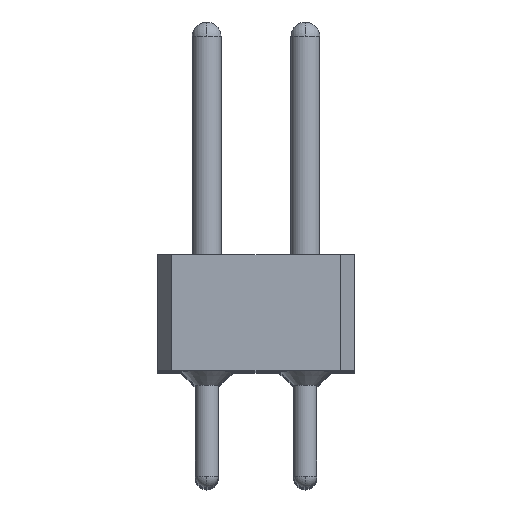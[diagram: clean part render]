
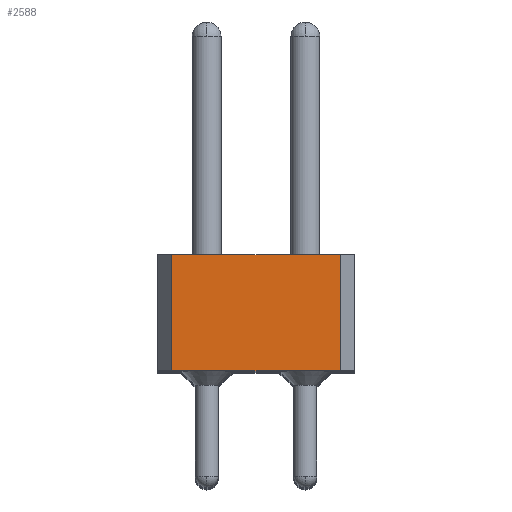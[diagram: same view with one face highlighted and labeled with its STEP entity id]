
A CAD part, top view. The second image highlights one B-rep face of the part: STEP entity #2588.
In plain terms, the highlighted planar face has unit normal (0, 0, 1).
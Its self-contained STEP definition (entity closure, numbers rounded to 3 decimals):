
#1762=FACE_OUTER_BOUND('',#5654,.T.);
#2588=ADVANCED_FACE('',(#1762),#2908,.F.);
#2908=PLANE('',#14461);
#3495=LINE('',#22875,#4111);
#3507=LINE('',#22907,#4123);
#3514=LINE('',#22922,#4130);
#3515=LINE('',#22924,#4131);
#4111=VECTOR('',#18322,1.);
#4123=VECTOR('',#18342,1.);
#4130=VECTOR('',#18357,1.);
#4131=VECTOR('',#18360,1.);
#5654=EDGE_LOOP('',(#8929,#8930,#8931,#8932));
#8929=ORIENTED_EDGE('',*,*,#11890,.T.);
#8930=ORIENTED_EDGE('',*,*,#11899,.F.);
#8931=ORIENTED_EDGE('',*,*,#11875,.F.);
#8932=ORIENTED_EDGE('',*,*,#11898,.T.);
#10207=VERTEX_POINT('',#22876);
#10208=VERTEX_POINT('',#22877);
#10222=VERTEX_POINT('',#22906);
#10223=VERTEX_POINT('',#22908);
#11875=EDGE_CURVE('',#10207,#10208,#3495,.T.);
#11890=EDGE_CURVE('',#10223,#10222,#3507,.T.);
#11898=EDGE_CURVE('',#10207,#10223,#3514,.T.);
#11899=EDGE_CURVE('',#10208,#10222,#3515,.T.);
#14461=AXIS2_PLACEMENT_3D('',#22925,#18361,#18362);
#18322=DIRECTION('',(1.,0.,0.));
#18342=DIRECTION('',(1.,0.,0.));
#18357=DIRECTION('',(0.,-1.,0.));
#18360=DIRECTION('',(0.,-1.,0.));
#18361=DIRECTION('',(0.,0.,-1.));
#18362=DIRECTION('',(0.,1.,0.));
#22875=CARTESIAN_POINT('',(-1.27,4.9,44.45));
#22876=CARTESIAN_POINT('',(-0.9,4.9,44.45));
#22877=CARTESIAN_POINT('',(3.44,4.9,44.45));
#22906=CARTESIAN_POINT('',(3.44,1.9,44.45));
#22907=CARTESIAN_POINT('',(3.81,1.9,44.45));
#22908=CARTESIAN_POINT('',(-0.9,1.9,44.45));
#22922=CARTESIAN_POINT('',(-0.9,3.8,44.45));
#22924=CARTESIAN_POINT('',(3.44,3.8,44.45));
#22925=CARTESIAN_POINT('',(1.64,3.8,44.45));
